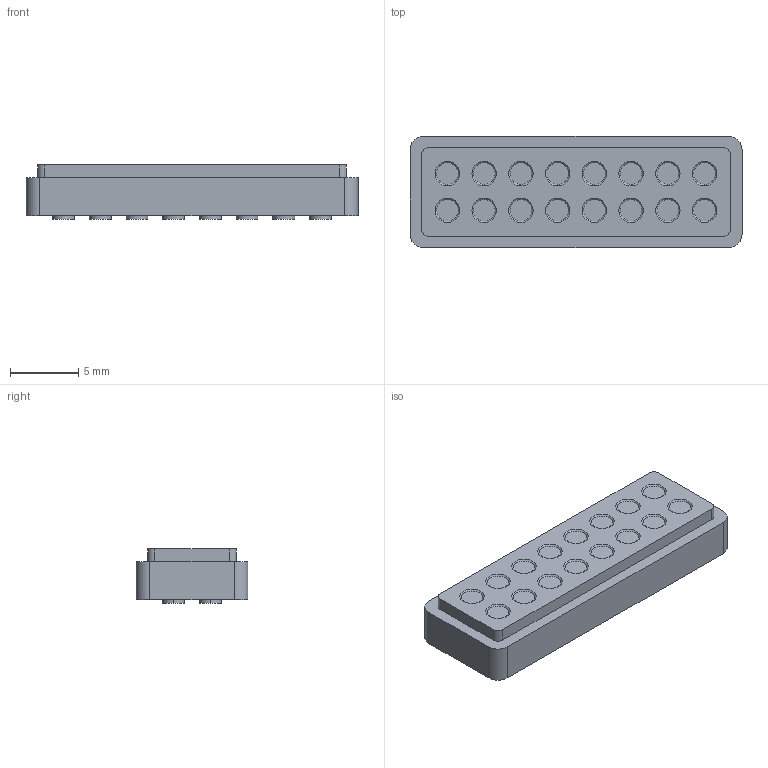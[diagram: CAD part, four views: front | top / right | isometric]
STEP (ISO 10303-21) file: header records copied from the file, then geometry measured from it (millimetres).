
FILE_DESCRIPTION((''),'2;1');
FILE_NAME('16PIN_ASM','2022-03-11T',('lenovo'),(''),'PRO/ENGINEER BY PARAMETRIC TECHNOLOGY CORPORATION, 2008380','PRO/ENGINEER BY PARAMETRIC TECHNOLOGY CORPORATION, 2008380','');
FILE_SCHEMA(('CONFIG_CONTROL_DESIGN'));
Length unit declared in the file: millimetre
Products named in the file (4): HOUSING; PIN; JIAOSHUI; 16PIN_ASM
Assembly tree (18 placements, depth 2):
  16PIN_ASM
    HOUSING
    PIN  x16
    JIAOSHUI
Bounding box: 24.4 x 8.2 x 4 mm (x, y, z)
Volume: 769.1 mm3; surface area: 1662.9 mm2
Topology: 18 solids, 18 shells, 367 faces, 760 edges, 496 vertices
Faces by surface type: cylinder 212, plane 123, cone 32
Entity records: 4056 total; most frequent: DIRECTION 764, CARTESIAN_POINT 655, ORIENTED_EDGE 620, EDGE_CURVE 310, AXIS2_PLACEMENT_3D 305, VERTEX_POINT 196, EDGE_LOOP 166, CIRCLE 156
